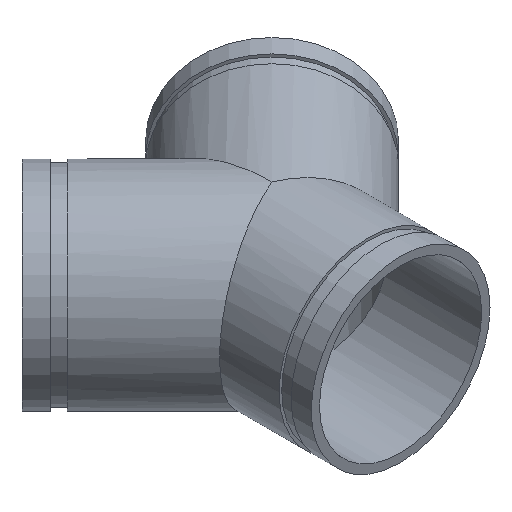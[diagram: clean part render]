
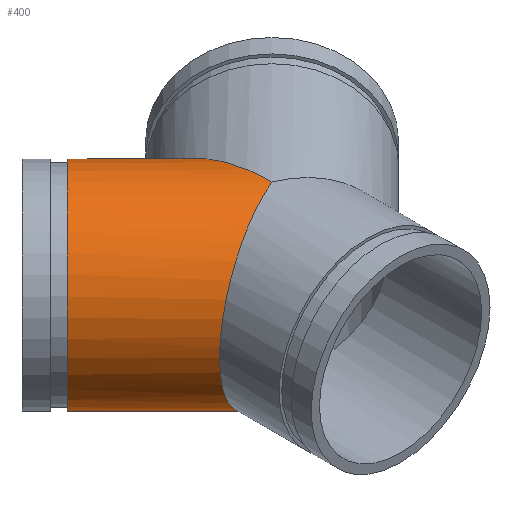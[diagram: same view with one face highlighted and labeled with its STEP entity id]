
A CAD part, isometric view. The second image highlights one B-rep face of the part: STEP entity #400.
In plain terms, the highlighted cylindrical face has radius 70.65 mm (diameter 141.3 mm), a full revolution.
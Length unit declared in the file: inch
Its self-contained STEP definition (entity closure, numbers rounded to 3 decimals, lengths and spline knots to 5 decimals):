
#76=FACE_OUTER_BOUND('',#103,.T.);
#103=EDGE_LOOP('',(#314,#315,#316,#317,#318,#319,#320,#321));
#118=ELLIPSE('',#470,3.93364,2.7815);
#119=ELLIPSE('',#471,3.01067,2.7815);
#120=ELLIPSE('',#472,3.01067,2.7815);
#121=ELLIPSE('',#473,3.93364,2.7815);
#131=LINE('',#735,#143);
#143=VECTOR('',#595,2.7815);
#156=CIRCLE('',#446,2.7815);
#157=CIRCLE('',#447,2.7815);
#186=VERTEX_POINT('',#686);
#187=VERTEX_POINT('',#687);
#202=VERTEX_POINT('',#730);
#203=VERTEX_POINT('',#731);
#204=VERTEX_POINT('',#733);
#205=VERTEX_POINT('',#736);
#223=EDGE_CURVE('',#186,#187,#156,.T.);
#224=EDGE_CURVE('',#187,#186,#157,.T.);
#243=EDGE_CURVE('',#202,#203,#118,.T.);
#244=EDGE_CURVE('',#204,#202,#119,.T.);
#245=EDGE_CURVE('',#204,#187,#131,.T.);
#246=EDGE_CURVE('',#205,#204,#120,.T.);
#247=EDGE_CURVE('',#203,#205,#121,.T.);
#314=ORIENTED_EDGE('',*,*,#243,.F.);
#315=ORIENTED_EDGE('',*,*,#244,.F.);
#316=ORIENTED_EDGE('',*,*,#245,.T.);
#317=ORIENTED_EDGE('',*,*,#224,.T.);
#318=ORIENTED_EDGE('',*,*,#223,.T.);
#319=ORIENTED_EDGE('',*,*,#245,.F.);
#320=ORIENTED_EDGE('',*,*,#246,.F.);
#321=ORIENTED_EDGE('',*,*,#247,.F.);
#359=CYLINDRICAL_SURFACE('',#469,2.7815);
#400=ADVANCED_FACE('',(#76),#359,.T.);
#446=AXIS2_PLACEMENT_3D('',#688,#539,#540);
#447=AXIS2_PLACEMENT_3D('',#689,#541,#542);
#469=AXIS2_PLACEMENT_3D('',#729,#589,#590);
#470=AXIS2_PLACEMENT_3D('',#732,#591,#592);
#471=AXIS2_PLACEMENT_3D('',#734,#593,#594);
#472=AXIS2_PLACEMENT_3D('',#737,#596,#597);
#473=AXIS2_PLACEMENT_3D('',#738,#598,#599);
#539=DIRECTION('center_axis',(0.707,-0.707,0.));
#540=DIRECTION('ref_axis',(0.707,0.707,0.));
#541=DIRECTION('center_axis',(0.707,-0.707,0.));
#542=DIRECTION('ref_axis',(0.707,0.707,0.));
#589=DIRECTION('center_axis',(0.707,-0.707,0.));
#590=DIRECTION('ref_axis',(0.707,0.707,0.));
#591=DIRECTION('center_axis',(1.,0.,0.));
#592=DIRECTION('ref_axis',(0.,1.,0.));
#593=DIRECTION('center_axis',(0.383,-0.924,0.));
#594=DIRECTION('ref_axis',(0.924,0.383,0.));
#595=DIRECTION('',(-0.707,0.707,0.));
#596=DIRECTION('center_axis',(0.383,-0.924,0.));
#597=DIRECTION('ref_axis',(0.924,0.383,0.));
#598=DIRECTION('center_axis',(1.,0.,0.));
#599=DIRECTION('ref_axis',(0.,1.,0.));
#686=CARTESIAN_POINT('',(-1.21516,5.1488,0.));
#687=CARTESIAN_POINT('',(-5.1488,1.21516,0.));
#688=CARTESIAN_POINT('Origin',(-3.18198,3.18198,0.));
#689=CARTESIAN_POINT('Origin',(-3.18198,3.18198,0.));
#729=CARTESIAN_POINT('Origin',(-3.88909,3.88909,0.));
#730=CARTESIAN_POINT('',(0.,0.,-2.7815));
#731=CARTESIAN_POINT('',(0.,3.93364,0.));
#732=CARTESIAN_POINT('Origin',(0.,0.,0.));
#733=CARTESIAN_POINT('',(-2.7815,-1.15214,0.));
#734=CARTESIAN_POINT('Origin',(0.,0.,0.));
#735=CARTESIAN_POINT('',(-5.8559,1.92227,0.));
#736=CARTESIAN_POINT('',(0.,0.,2.7815));
#737=CARTESIAN_POINT('Origin',(0.,0.,0.));
#738=CARTESIAN_POINT('Origin',(0.,0.,0.));
